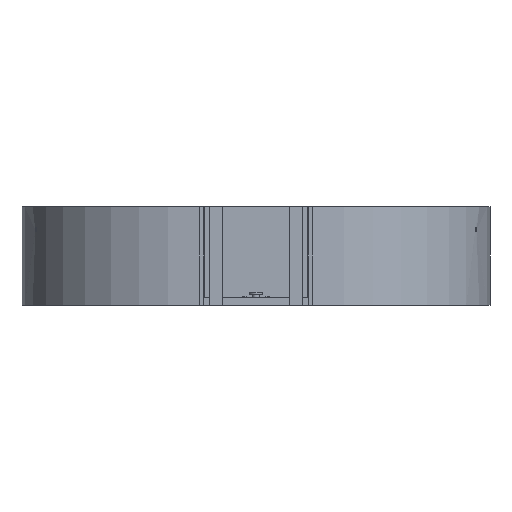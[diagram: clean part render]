
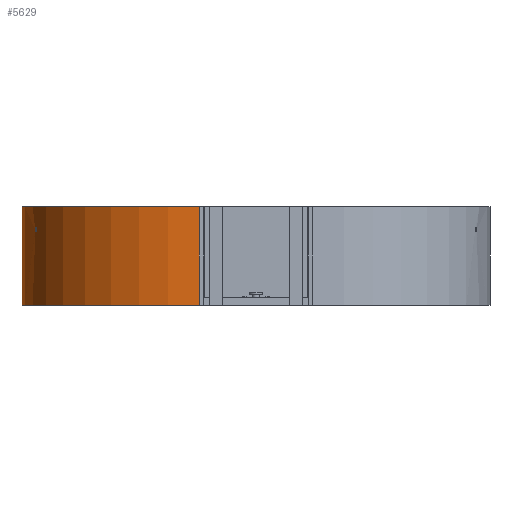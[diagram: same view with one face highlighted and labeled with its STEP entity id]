
A CAD part, front view. The second image highlights one B-rep face of the part: STEP entity #5629.
In plain terms, the highlighted cylindrical face has radius 46.7 mm (diameter 93.4 mm), a partial arc.
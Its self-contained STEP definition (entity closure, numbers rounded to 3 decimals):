
#4152 = VERTEX_POINT('',#4153);
#4153 = CARTESIAN_POINT('',(-61.7,45.,11.));
#4159 = EDGE_CURVE('',#4152,#4160,#4162,.T.);
#4160 = VERTEX_POINT('',#4161);
#4161 = CARTESIAN_POINT('',(-15.,-1.7,11.));
#4162 = CIRCLE('',#4163,46.7);
#4163 = AXIS2_PLACEMENT_3D('',#4164,#4165,#4166);
#4164 = CARTESIAN_POINT('',(-15.,45.,11.));
#4165 = DIRECTION('',(0.,0.,1.));
#4166 = DIRECTION('',(-1.,0.,0.));
#4416 = VERTEX_POINT('',#4417);
#4417 = CARTESIAN_POINT('',(-61.7,45.,37.));
#4423 = EDGE_CURVE('',#4416,#4424,#4426,.T.);
#4424 = VERTEX_POINT('',#4425);
#4425 = CARTESIAN_POINT('',(-15.,-1.7,37.));
#4426 = CIRCLE('',#4427,46.7);
#4427 = AXIS2_PLACEMENT_3D('',#4428,#4429,#4430);
#4428 = CARTESIAN_POINT('',(-15.,45.,37.));
#4429 = DIRECTION('',(0.,0.,1.));
#4430 = DIRECTION('',(-1.,0.,0.));
#4642 = VERTEX_POINT('',#4643);
#4643 = CARTESIAN_POINT('',(-57.986,26.75,31.5));
#4649 = EDGE_CURVE('',#4642,#4642,#4650,.T.);
#4650 = B_SPLINE_CURVE_WITH_KNOTS('',8,(#4651,#4652,#4653,#4654,#4655,
    #4656,#4657,#4658,#4659,#4660,#4661,#4662,#4663,#4664,#4665,#4666,
    #4667,#4668,#4669,#4670,#4671,#4672,#4673,#4674,#4675,#4676,#4677,
    #4678,#4679,#4680,#4681,#4682,#4683,#4684,#4685,#4686,#4687,#4688,
    #4689,#4690,#4691,#4692,#4693,#4694),.UNSPECIFIED.,.T.,.F.,(9,7,7,7,
    7,7,9),(0.,0.123,0.251,0.5,
    0.749,0.887,1.),.UNSPECIFIED.);
#4651 = CARTESIAN_POINT('',(-57.986,26.75,31.5));
#4652 = CARTESIAN_POINT('',(-58.007,26.8,31.5));
#4653 = CARTESIAN_POINT('',(-58.028,26.849,
    31.494));
#4654 = CARTESIAN_POINT('',(-58.049,26.898,
    31.483));
#4655 = CARTESIAN_POINT('',(-58.069,26.945,
    31.466));
#4656 = CARTESIAN_POINT('',(-58.087,26.99,
    31.445));
#4657 = CARTESIAN_POINT('',(-58.105,27.031,
    31.418));
#4658 = CARTESIAN_POINT('',(-58.121,27.07,
    31.388));
#4659 = CARTESIAN_POINT('',(-58.149,27.139,
    31.318));
#4660 = CARTESIAN_POINT('',(-58.162,27.17,
    31.279));
#4661 = CARTESIAN_POINT('',(-58.173,27.196,
    31.237));
#4662 = CARTESIAN_POINT('',(-58.182,27.218,
    31.192));
#4663 = CARTESIAN_POINT('',(-58.189,27.234,
    31.145));
#4664 = CARTESIAN_POINT('',(-58.193,27.245,
    31.097));
#4665 = CARTESIAN_POINT('',(-58.195,27.25,31.049));
#4666 = CARTESIAN_POINT('',(-58.195,27.25,30.906));
#4667 = CARTESIAN_POINT('',(-58.187,27.23,
    30.809));
#4668 = CARTESIAN_POINT('',(-58.17,27.188,
    30.718));
#4669 = CARTESIAN_POINT('',(-58.144,27.125,
    30.636));
#4670 = CARTESIAN_POINT('',(-58.111,27.045,
    30.57));
#4671 = CARTESIAN_POINT('',(-58.072,26.953,
    30.524));
#4672 = CARTESIAN_POINT('',(-58.03,26.852,30.5));
#4673 = CARTESIAN_POINT('',(-57.943,26.648,30.5));
#4674 = CARTESIAN_POINT('',(-57.9,26.547,
    30.524));
#4675 = CARTESIAN_POINT('',(-57.86,26.455,
    30.57));
#4676 = CARTESIAN_POINT('',(-57.825,26.375,
    30.636));
#4677 = CARTESIAN_POINT('',(-57.798,26.313,
    30.717));
#4678 = CARTESIAN_POINT('',(-57.78,26.27,
    30.809));
#4679 = CARTESIAN_POINT('',(-57.771,26.25,30.905));
#4680 = CARTESIAN_POINT('',(-57.771,26.25,31.052));
#4681 = CARTESIAN_POINT('',(-57.773,26.256,
    31.105));
#4682 = CARTESIAN_POINT('',(-57.779,26.269,
    31.157));
#4683 = CARTESIAN_POINT('',(-57.787,26.288,
    31.207));
#4684 = CARTESIAN_POINT('',(-57.798,26.312,
    31.254));
#4685 = CARTESIAN_POINT('',(-57.811,26.343,
    31.299));
#4686 = CARTESIAN_POINT('',(-57.827,26.379,
    31.339));
#4687 = CARTESIAN_POINT('',(-57.859,26.453,
    31.404));
#4688 = CARTESIAN_POINT('',(-57.875,26.489,
    31.431));
#4689 = CARTESIAN_POINT('',(-57.892,26.529,
    31.453));
#4690 = CARTESIAN_POINT('',(-57.91,26.57,
    31.472));
#4691 = CARTESIAN_POINT('',(-57.928,26.614,
    31.486));
#4692 = CARTESIAN_POINT('',(-57.948,26.659,
    31.495));
#4693 = CARTESIAN_POINT('',(-57.967,26.704,31.5));
#4694 = CARTESIAN_POINT('',(-57.986,26.75,31.5));
#4990 = EDGE_CURVE('',#4160,#4424,#4991,.T.);
#4991 = LINE('',#4992,#4993);
#4992 = CARTESIAN_POINT('',(-15.,-1.7,11.));
#4993 = VECTOR('',#4994,1.);
#4994 = DIRECTION('',(0.,0.,1.));
#5618 = EDGE_CURVE('',#4152,#4416,#5619,.T.);
#5619 = LINE('',#5620,#5621);
#5620 = CARTESIAN_POINT('',(-61.7,45.,11.));
#5621 = VECTOR('',#5622,1.);
#5622 = DIRECTION('',(0.,0.,1.));
#5629 = ADVANCED_FACE('',(#5630,#5636),#5639,.T.);
#5630 = FACE_BOUND('',#5631,.F.);
#5631 = EDGE_LOOP('',(#5632,#5633,#5634,#5635));
#5632 = ORIENTED_EDGE('',*,*,#5618,.T.);
#5633 = ORIENTED_EDGE('',*,*,#4423,.T.);
#5634 = ORIENTED_EDGE('',*,*,#4990,.F.);
#5635 = ORIENTED_EDGE('',*,*,#4159,.F.);
#5636 = FACE_BOUND('',#5637,.F.);
#5637 = EDGE_LOOP('',(#5638));
#5638 = ORIENTED_EDGE('',*,*,#4649,.T.);
#5639 = CYLINDRICAL_SURFACE('',#5640,46.7);
#5640 = AXIS2_PLACEMENT_3D('',#5641,#5642,#5643);
#5641 = CARTESIAN_POINT('',(-15.,45.,11.));
#5642 = DIRECTION('',(-0.,-0.,-1.));
#5643 = DIRECTION('',(-1.,0.,0.));
